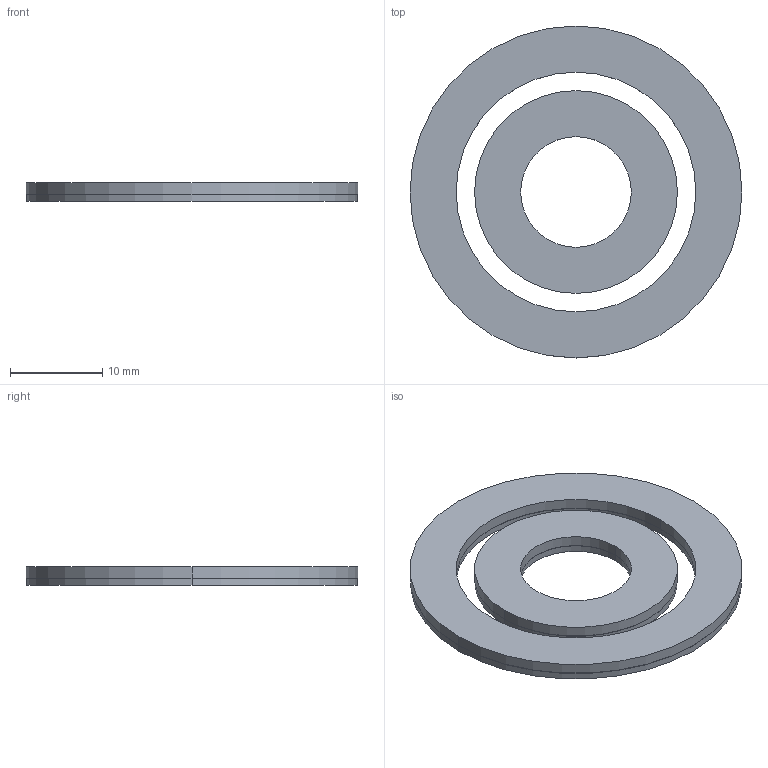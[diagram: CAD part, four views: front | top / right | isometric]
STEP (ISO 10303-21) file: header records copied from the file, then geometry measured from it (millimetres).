
FILE_DESCRIPTION((''),'2;1');
FILE_NAME('EAS-J48KN-HD-3________-_________ASM','2026-09-02T',('guxinfeng'),(''),'PRO/ENGINEER BY PARAMETRIC TECHNOLOGY CORPORATION, 2012480','PRO/ENGINEER BY PARAMETRIC TECHNOLOGY CORPORATION, 2012480','');
FILE_SCHEMA(('CONFIG_CONTROL_DESIGN'));
Length unit declared in the file: millimetre
Products named in the file (11): PRT0012_1_1_1_1_1_1; PRT0013_1_1_1_1_1_1; ASM0111_ASM_2_ASM_1_ASM; ASM0110_ASM_2_ASM_1_ASM; PRT0014_1_1_1_1_1_1; PRT0015_1_1_1_1_1_1; ASM0113_ASM_2_ASM_1_ASM; ASM0112_ASM_2_ASM_1_ASM; ASM0109_ASM_2_ASM_1_ASM; ASM0106_ASM_2_ASM_1_ASM; EAS-J48KN-HD-3________-_________ASM
Assembly tree (10 placements, depth 6):
  EAS-J48KN-HD-3________-_________ASM
    ASM0106_ASM_2_ASM_1_ASM
      ASM0109_ASM_2_ASM_1_ASM
        ASM0110_ASM_2_ASM_1_ASM
          ASM0111_ASM_2_ASM_1_ASM
            PRT0012_1_1_1_1_1_1
            PRT0013_1_1_1_1_1_1
        ASM0112_ASM_2_ASM_1_ASM
          ASM0113_ASM_2_ASM_1_ASM
            PRT0014_1_1_1_1_1_1
            PRT0015_1_1_1_1_1_1
Bounding box: 36 x 36 x 1.96 mm (x, y, z)
Volume: 1466.3 mm3; surface area: 3576.9 mm2
Topology: 4 solids, 4 shells, 24 faces, 48 edges, 32 vertices
Faces by surface type: cylinder 16, plane 8
Entity records: 1198 total; most frequent: DIRECTION 188, CARTESIAN_POINT 134, ORIENTED_EDGE 96, AXIS2_PLACEMENT_3D 86, EDGE_CURVE 48, PRESENTATION_LAYER_ASSIGNMENT 40, VERTEX_POINT 32, EDGE_LOOP 32
